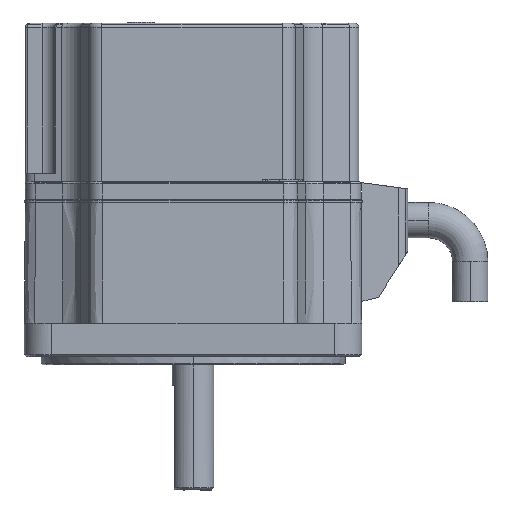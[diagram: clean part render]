
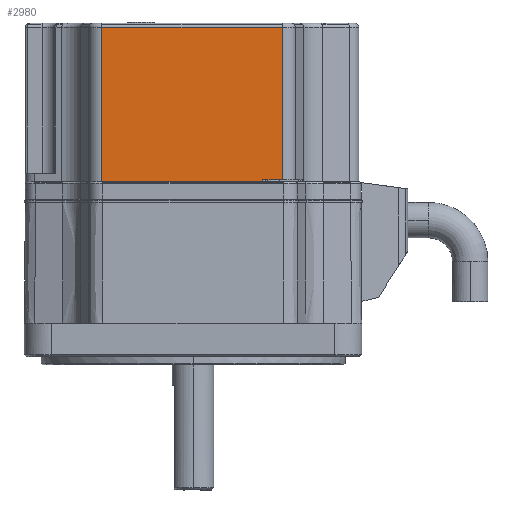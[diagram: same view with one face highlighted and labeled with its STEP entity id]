
A CAD part, left-side view. The second image highlights one B-rep face of the part: STEP entity #2980.
In plain terms, the highlighted planar face has unit normal (-1, 0, 0) as drawn and (0, -1, 0) by its records, which use the part's own axes.
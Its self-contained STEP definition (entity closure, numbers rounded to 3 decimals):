
#137 = EDGE_CURVE ( 'NONE', #12853, #13573, #17189, .T. ) ;
#379 = VERTEX_POINT ( 'NONE', #15539 ) ;
#2674 = DIRECTION ( 'NONE',  ( 0., 0., 1. ) ) ;
#2943 = EDGE_CURVE ( 'NONE', #379, #12853, #16583, .T. ) ;
#2980 = ADVANCED_FACE ( 'NONE', ( #3796 ), #10954, .T. ) ;
#3273 = AXIS2_PLACEMENT_3D ( 'NONE', #5108, #3707, #6665 ) ;
#3707 = DIRECTION ( 'NONE',  ( 0., -1., 0. ) ) ;
#3796 = FACE_OUTER_BOUND ( 'NONE', #5854, .T. ) ;
#4109 = CARTESIAN_POINT ( 'NONE',  ( -21.661, -40., 37. ) ) ;
#4444 = EDGE_CURVE ( 'NONE', #11037, #15628, #9218, .T. ) ;
#4475 = CARTESIAN_POINT ( 'NONE',  ( 21.661, -40., 0.5 ) ) ;
#5108 = CARTESIAN_POINT ( 'NONE',  ( -21.661, -40., 0. ) ) ;
#5113 = ORIENTED_EDGE ( 'NONE', *, *, #18631, .F. ) ;
#5581 = EDGE_CURVE ( 'NONE', #15628, #13573, #9929, .T. ) ;
#5749 = VECTOR ( 'NONE', #2674, 1000. ) ;
#5854 = EDGE_LOOP ( 'NONE', ( #12683, #16508, #7121, #15299, #9644, #5113 ) ) ;
#6094 = VERTEX_POINT ( 'NONE', #7776 ) ;
#6665 = DIRECTION ( 'NONE',  ( 0., 0., -1. ) ) ;
#7121 = ORIENTED_EDGE ( 'NONE', *, *, #137, .F. ) ;
#7701 = DIRECTION ( 'NONE',  ( 1., 0., 0. ) ) ;
#7776 = CARTESIAN_POINT ( 'NONE',  ( 17., -40., 0. ) ) ;
#7788 = CARTESIAN_POINT ( 'NONE',  ( 17., -40., 0.5 ) ) ;
#7902 = DIRECTION ( 'NONE',  ( 0., 0., 1. ) ) ;
#8683 = DIRECTION ( 'NONE',  ( 1., 0., 0. ) ) ;
#9042 = VECTOR ( 'NONE', #7902, 1000. ) ;
#9218 = LINE ( 'NONE', #7788, #9715 ) ;
#9566 = CARTESIAN_POINT ( 'NONE',  ( 21.661, -40., 0.5 ) ) ;
#9644 = ORIENTED_EDGE ( 'NONE', *, *, #18354, .T. ) ;
#9715 = VECTOR ( 'NONE', #7701, 1000. ) ;
#9788 = DIRECTION ( 'NONE',  ( 1., 0., 0. ) ) ;
#9929 = LINE ( 'NONE', #4475, #5749 ) ;
#10954 = PLANE ( 'NONE',  #3273 ) ;
#11037 = VERTEX_POINT ( 'NONE', #15396 ) ;
#11109 = DIRECTION ( 'NONE',  ( 0., 0., -1. ) ) ;
#12166 = CARTESIAN_POINT ( 'NONE',  ( 17., -40., 0.5 ) ) ;
#12539 = CARTESIAN_POINT ( 'NONE',  ( -21.661, -40., 37. ) ) ;
#12683 = ORIENTED_EDGE ( 'NONE', *, *, #4444, .T. ) ;
#12790 = VECTOR ( 'NONE', #9788, 1000. ) ;
#12853 = VERTEX_POINT ( 'NONE', #12539 ) ;
#13573 = VERTEX_POINT ( 'NONE', #18396 ) ;
#14165 = CARTESIAN_POINT ( 'NONE',  ( -21.661, -40., 0. ) ) ;
#15137 = CARTESIAN_POINT ( 'NONE',  ( -21.661, -40., 0. ) ) ;
#15299 = ORIENTED_EDGE ( 'NONE', *, *, #2943, .F. ) ;
#15396 = CARTESIAN_POINT ( 'NONE',  ( 17., -40., 0.5 ) ) ;
#15539 = CARTESIAN_POINT ( 'NONE',  ( -21.661, -40., 0. ) ) ;
#15628 = VERTEX_POINT ( 'NONE', #9566 ) ;
#16106 = VECTOR ( 'NONE', #11109, 1000. ) ;
#16508 = ORIENTED_EDGE ( 'NONE', *, *, #5581, .T. ) ;
#16583 = LINE ( 'NONE', #15137, #9042 ) ;
#17189 = LINE ( 'NONE', #4109, #18607 ) ;
#18070 = LINE ( 'NONE', #12166, #16106 ) ;
#18354 = EDGE_CURVE ( 'NONE', #379, #6094, #18833, .T. ) ;
#18396 = CARTESIAN_POINT ( 'NONE',  ( 21.661, -40., 37. ) ) ;
#18607 = VECTOR ( 'NONE', #8683, 1000. ) ;
#18631 = EDGE_CURVE ( 'NONE', #11037, #6094, #18070, .T. ) ;
#18833 = LINE ( 'NONE', #14165, #12790 ) ;
